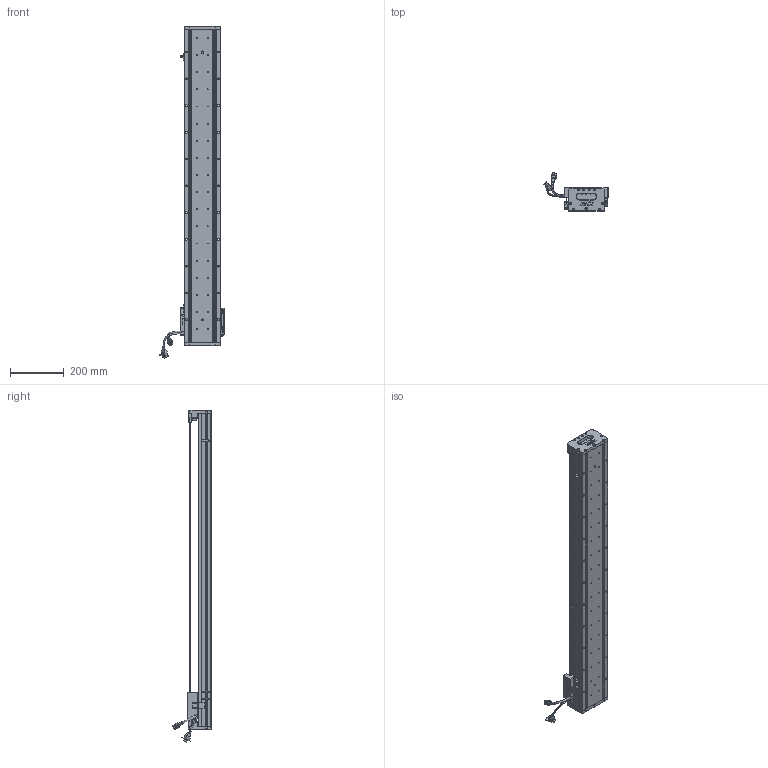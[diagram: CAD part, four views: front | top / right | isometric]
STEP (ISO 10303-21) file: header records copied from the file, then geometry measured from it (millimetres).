
FILE_DESCRIPTION (( 'STEP AP203' ), '1' );
FILE_NAME ('Z1-RY140D-1-L500-B-K.SLDASM_1000.step', '2021-05-17T07:31:25', ( '盈信电脑' ), ( '东莞市道滘镇水果街19号' ), 'SwSTEP 2.0', 'SolidWorks 2016', '' );
FILE_SCHEMA (( 'CONFIG_CONTROL_DESIGN' ));
Length unit declared in the file: millimetre
Products named in the file (36): 覜茼ん672; Z-140詩湍傷裔啣; SCREW-M1.6-1; PBU_SHEET; SEAL-Part-1; LABEL; PSLH080_PSLF2; SCREW-M1.7; HARNESS-Part-1; LABEL-Part-1; SCALE-Part-1; SCREW-M1.7-1; HOLDER0; Z-RY140感应器672光电感应片; SHIELDPLATE; Z1-RY140-L500詩湍100mm遵_1000; SCREW-M1.6; SCREW-M1.6-3; 080黍杅芛假蚾釱21遴; 140-Z-臏賑輸盄裔(21遴); SCALE; Z1-RY140-L500直线电机模组底座_1000; 140雄赽晤鎢ん堤盄; COVER; Z1-RY140D-1-L500-B-K.SLDASM_1000; COVER-Part-1; SCREW-M1.6-2; Z1-RY140圉猾敕臏賑輸(21遴); 榋妏寠巭燃_暯_M2_2; HARNESS-Part-2; 140蚥薯蝶輸; SEAL; SCALE-Part-2; Z-RY140詩湍狟揤裔; HARNESS; Z-RY140詩湍奻揤裔
Assembly tree (41 placements, depth 4):
  Z1-RY140D-1-L500-B-K.SLDASM_1000
    Z1-RY140-L500直线电机模组底座_1000
    Z-RY140感应器672光电感应片
    Z1-RY140圉猾敕臏賑輸(21遴)
    覜茼ん672  x3
    Z1-RY140-L500詩湍100mm遵_1000
    PSLH080_PSLF2
      SCALE
        SCALE-Part-1
        SCALE-Part-2
      HARNESS
        HARNESS-Part-1
        HARNESS-Part-2
      LABEL
        LABEL-Part-1
      COVER
        COVER-Part-1
      SEAL
        SEAL-Part-1
      榋妏寠巭燃_暯_M2_2
      SHIELDPLATE
      SCREW-M1.7
      SCREW-M1.7-1
      PBU_SHEET
      SCREW-M1.6
      SCREW-M1.6-1
      SCREW-M1.6-2
      SCREW-M1.6-3
      HOLDER0
    080黍杅芛假蚾釱21遴
    140-Z-臏賑輸盄裔(21遴)
    Z-140詩湍傷裔啣  x2
    Z-RY140詩湍狟揤裔  x2
    Z-RY140詩湍奻揤裔  x2
    140蚥薯蝶輸  x2
    140雄赽晤鎢ん堤盄
Bounding box: 239.84 x 143.88 x 1240.88 mm (x, y, z)
Volume: 4116331.2 mm3; surface area: 1098948.7 mm2
Topology: 36 solids, 36 shells, 2956 faces, 7830 edges, 4963 vertices
Faces by surface type: cylinder 1408, plane 1148, cone 278, torus 69, bspline 53
Entity records: 87306 total; most frequent: CARTESIAN_POINT 22513, ORIENTED_EDGE 12796, DIRECTION 12498, EDGE_CURVE 6398, AXIS2_PLACEMENT_3D 4580, VERTEX_POINT 4131, VECTOR 3338, LINE 3338
